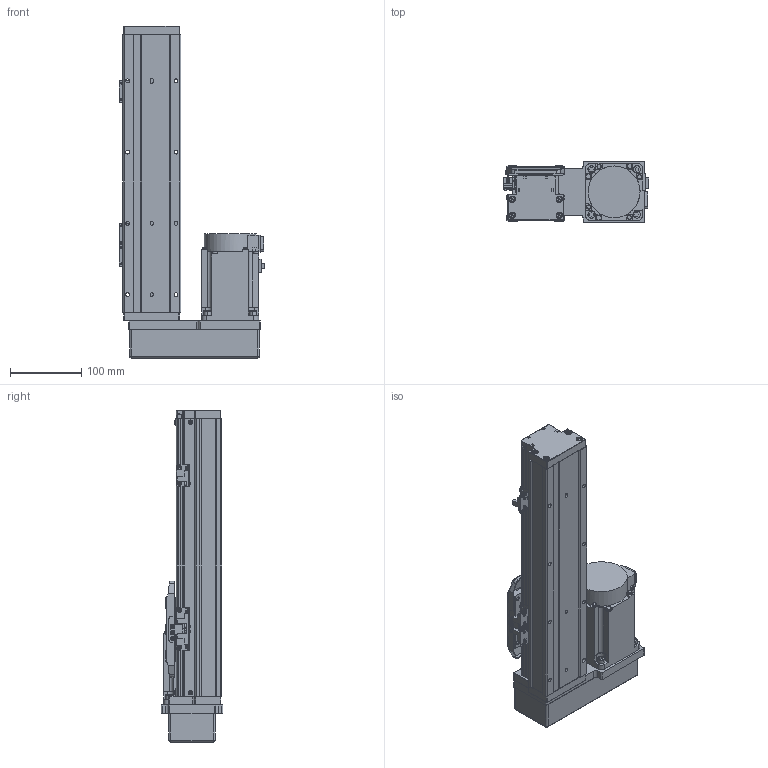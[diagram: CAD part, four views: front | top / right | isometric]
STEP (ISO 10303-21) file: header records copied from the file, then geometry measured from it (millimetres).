
FILE_DESCRIPTION (( 'STEP AP203' ), '1' );
FILE_NAME ('GTH8-200-BR-M75-C4.step', '2023-02-14T02:32:43', ( '微软用户' ), ( '微软中国' ), 'SwSTEP 2.0', 'SolidWorks 2020', '' );
FILE_SCHEMA (( 'CONFIG_CONTROL_DESIGN' ));
Length unit declared in the file: millimetre
Products named in the file (18): GTH80-004; CTHA86-035; GTH80-028; GTH80-006; hg-kn73j_-s100; GTH50-024; GTH80-013; GTH8-200-BR-M75-C4; GTH50-023; GBT 70.3-M3℅6; GBT96.1-2002 3×0.8; GTH80-022; GTH80-001_200; BTH-M3X5X6; GBT 70.1-M3℅6; GTH80-003; CTHA86-015-3_CTHA86-015-4; GBT 70.1-M4×16
Assembly tree (57 placements, depth 2):
  GTH8-200-BR-M75-C4
    GTH80-001_200
    GTH80-003
    GTH80-004
    GTH80-006
    GTH80-013
    GBT 70.3-M3℅6  x4
    GTH80-022
    GBT 70.1-M3℅6  x14
    GBT 70.1-M4×16  x8
    GTH80-028  x2
    GTH50-024  x3
    GTH50-023  x3
    GBT96.1-2002 3×0.8  x6
    BTH-M3X5X6  x8
    CTHA86-015-3_CTHA86-015-4
    CTHA86-035
    hg-kn73j_-s100
Bounding box: 204.7 x 87 x 466 mm (x, y, z)
Volume: 3237367.7 mm3; surface area: 371371 mm2
Topology: 59 solids, 59 shells, 2179 faces, 5046 edges, 3088 vertices
Faces by surface type: plane 1153, cylinder 611, cone 243, torus 158, sphere 12, bspline 2
Entity records: 38996 total; most frequent: CARTESIAN_POINT 6551, DIRECTION 6417, ORIENTED_EDGE 5902, EDGE_CURVE 2951, AXIS2_PLACEMENT_3D 2254, VECTOR 1909, LINE 1909, VERTEX_POINT 1863
